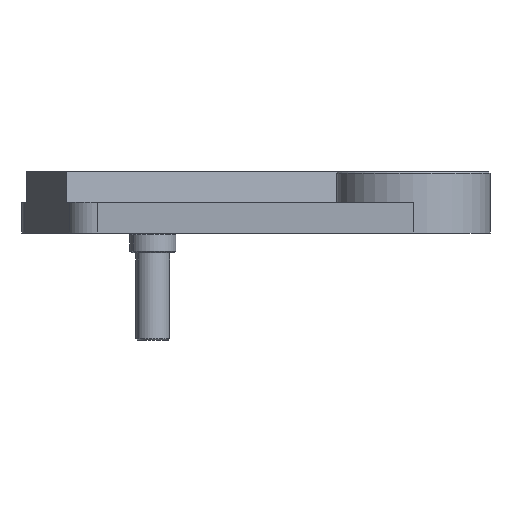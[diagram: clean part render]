
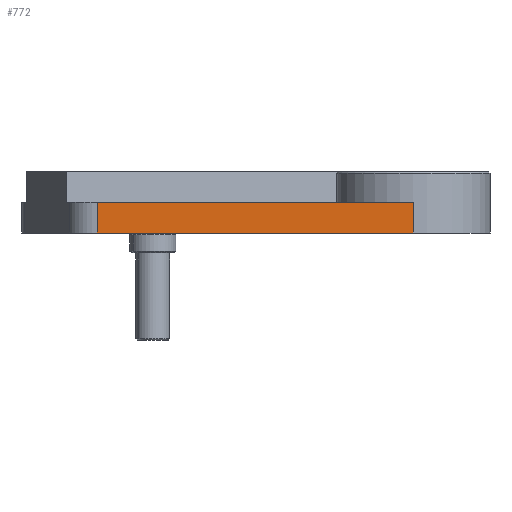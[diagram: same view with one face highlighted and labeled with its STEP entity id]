
A CAD part, front view. The second image highlights one B-rep face of the part: STEP entity #772.
In plain terms, the highlighted planar face has unit normal (0, -1, 0) as drawn and (0, 1, 0) by its records, which use the part's own axes.
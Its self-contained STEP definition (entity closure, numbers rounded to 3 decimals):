
#36 = ORIENTED_EDGE ( 'NONE', *, *, #3098, .F. ) ;
#48 = CARTESIAN_POINT ( 'NONE',  ( 13., 309.675, 0. ) ) ;
#350 = CARTESIAN_POINT ( 'NONE',  ( 13., 309.675, 20. ) ) ;
#403 = VECTOR ( 'NONE', #2715, 1000. ) ;
#772 = ADVANCED_FACE ( 'NONE', ( #3413 ), #2530, .F. ) ;
#800 = LINE ( 'NONE', #350, #5546 ) ;
#1137 = VERTEX_POINT ( 'NONE', #2579 ) ;
#1261 = CARTESIAN_POINT ( 'NONE',  ( 13., 309.675, 40. ) ) ;
#1282 = DIRECTION ( 'NONE',  ( -1., 0., 0. ) ) ;
#1449 = ORIENTED_EDGE ( 'NONE', *, *, #5053, .T. ) ;
#2225 = LINE ( 'NONE', #1261, #3647 ) ;
#2274 = CARTESIAN_POINT ( 'NONE',  ( 13., 309.675, 20. ) ) ;
#2414 = ORIENTED_EDGE ( 'NONE', *, *, #3131, .T. ) ;
#2451 = VERTEX_POINT ( 'NONE', #2274 ) ;
#2530 = PLANE ( 'NONE',  #4663 ) ;
#2579 = CARTESIAN_POINT ( 'NONE',  ( 219.123, 309.675, 0. ) ) ;
#2696 = DIRECTION ( 'NONE',  ( 1., 0., 0. ) ) ;
#2715 = DIRECTION ( 'NONE',  ( 0., 0., -1. ) ) ;
#2742 = EDGE_LOOP ( 'NONE', ( #36, #2414, #1449, #4431 ) ) ;
#2905 = LINE ( 'NONE', #5146, #5294 ) ;
#3098 = EDGE_CURVE ( 'NONE', #4056, #2451, #800, .T. ) ;
#3131 = EDGE_CURVE ( 'NONE', #4056, #1137, #4133, .T. ) ;
#3413 = FACE_OUTER_BOUND ( 'NONE', #2742, .T. ) ;
#3647 = VECTOR ( 'NONE', #4936, 1000. ) ;
#4056 = VERTEX_POINT ( 'NONE', #5489 ) ;
#4063 = DIRECTION ( 'NONE',  ( 0., -1., 0. ) ) ;
#4133 = LINE ( 'NONE', #5042, #403 ) ;
#4344 = CARTESIAN_POINT ( 'NONE',  ( 13., 309.675, 40. ) ) ;
#4431 = ORIENTED_EDGE ( 'NONE', *, *, #4521, .F. ) ;
#4521 = EDGE_CURVE ( 'NONE', #2451, #5421, #2225, .T. ) ;
#4663 = AXIS2_PLACEMENT_3D ( 'NONE', #4344, #4063, #2696 ) ;
#4727 = DIRECTION ( 'NONE',  ( -1., 0., 0. ) ) ;
#4936 = DIRECTION ( 'NONE',  ( 0., 0., -1. ) ) ;
#5042 = CARTESIAN_POINT ( 'NONE',  ( 219.123, 309.675, 0. ) ) ;
#5053 = EDGE_CURVE ( 'NONE', #1137, #5421, #2905, .T. ) ;
#5146 = CARTESIAN_POINT ( 'NONE',  ( 13., 309.675, 0. ) ) ;
#5294 = VECTOR ( 'NONE', #4727, 1000. ) ;
#5421 = VERTEX_POINT ( 'NONE', #48 ) ;
#5489 = CARTESIAN_POINT ( 'NONE',  ( 219.123, 309.675, 20. ) ) ;
#5546 = VECTOR ( 'NONE', #1282, 1000. ) ;
